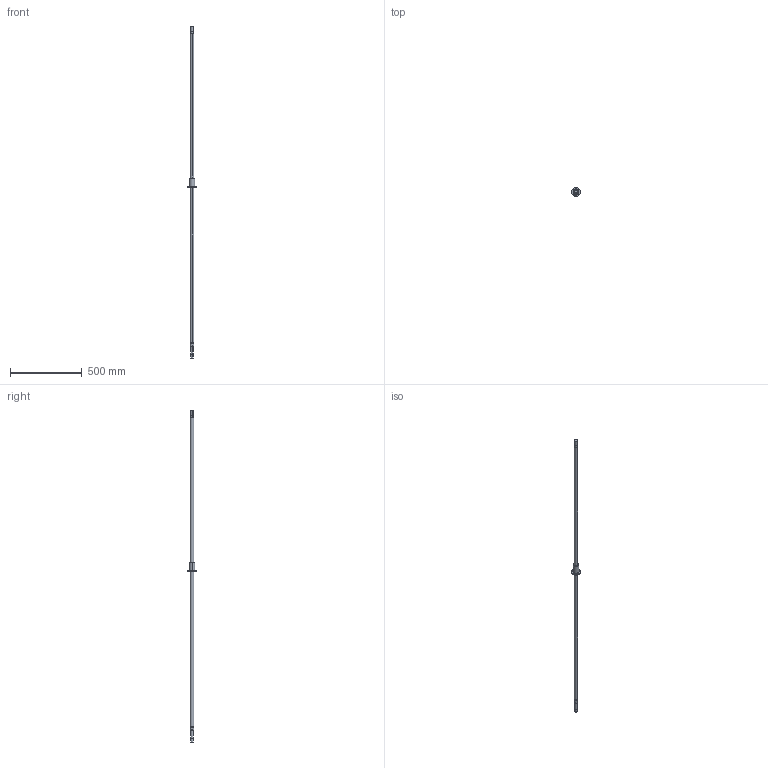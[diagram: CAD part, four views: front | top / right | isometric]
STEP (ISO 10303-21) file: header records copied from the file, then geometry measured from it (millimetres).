
FILE_DESCRIPTION((''),'2;1');
FILE_NAME('25-25K2','2008-04-11T',('cmliu'),(''),'PRO/ENGINEER BY PARAMETRIC TECHNOLOGY CORPORATION, 2004110','PRO/ENGINEER BY PARAMETRIC TECHNOLOGY CORPORATION, 2004110','');
FILE_SCHEMA(('CONFIG_CONTROL_DESIGN'));
Length unit declared in the file: millimetre
Products named in the file (1): 25-25K2
Bounding box: 62 x 62 x 2313 mm (x, y, z)
Volume: 1174502.6 mm3; surface area: 190456.1 mm2
Topology: 1 solids, 1 shells, 56 faces, 126 edges, 84 vertices
Faces by surface type: cylinder 39, plane 17
Entity records: 1715 total; most frequent: CARTESIAN_POINT 321, DIRECTION 310, ORIENTED_EDGE 252, AXIS2_PLACEMENT_3D 132, EDGE_CURVE 126, VERTEX_POINT 84, EDGE_LOOP 80, CIRCLE 76
